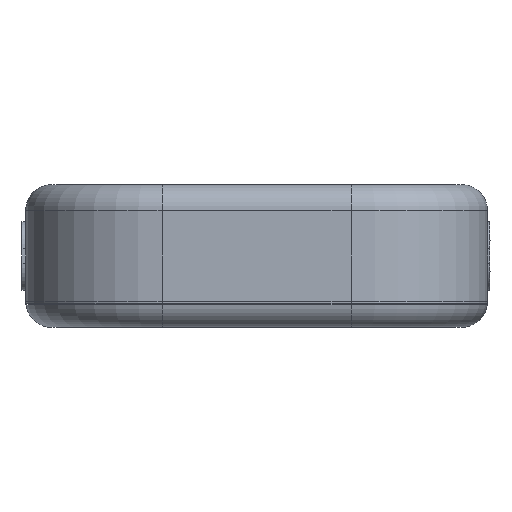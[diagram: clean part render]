
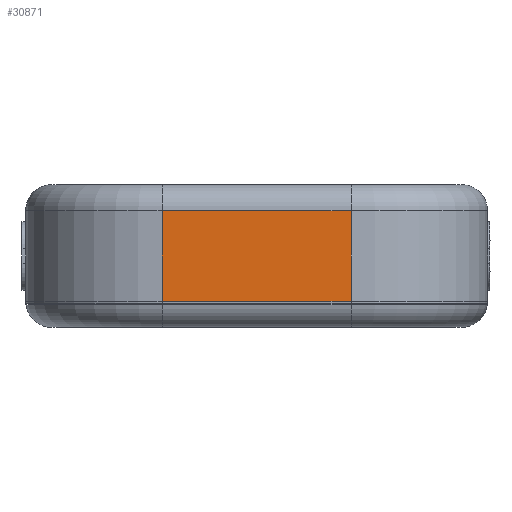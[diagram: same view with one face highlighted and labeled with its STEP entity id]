
A CAD part, front view. The second image highlights one B-rep face of the part: STEP entity #30871.
In plain terms, the highlighted planar face has unit normal (0, -1, 0).
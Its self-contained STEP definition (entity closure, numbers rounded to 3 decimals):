
#30031 = CYLINDRICAL_SURFACE('',#30032,26.);
#30032 = AXIS2_PLACEMENT_3D('',#30033,#30034,#30035);
#30033 = CARTESIAN_POINT('',(-18.,-42.,-13.6));
#30034 = DIRECTION('',(0.,0.,1.));
#30035 = DIRECTION('',(-1.,-0.,0.));
#30196 = VERTEX_POINT('',#30197);
#30197 = CARTESIAN_POINT('',(-18.,-68.,-8.6));
#30224 = EDGE_CURVE('',#30196,#30225,#30227,.T.);
#30225 = VERTEX_POINT('',#30226);
#30226 = CARTESIAN_POINT('',(-18.,-68.,8.6));
#30227 = SURFACE_CURVE('',#30228,(#30232,#30239),.PCURVE_S1.);
#30228 = LINE('',#30229,#30230);
#30229 = CARTESIAN_POINT('',(-18.,-68.,-13.6));
#30230 = VECTOR('',#30231,1.);
#30231 = DIRECTION('',(0.,0.,1.));
#30232 = PCURVE('',#30031,#30233);
#30233 = DEFINITIONAL_REPRESENTATION('',(#30234),#30238);
#30234 = LINE('',#30235,#30236);
#30235 = CARTESIAN_POINT('',(1.571,0.));
#30236 = VECTOR('',#30237,1.);
#30237 = DIRECTION('',(0.,1.));
#30238 = ( GEOMETRIC_REPRESENTATION_CONTEXT(2) 
PARAMETRIC_REPRESENTATION_CONTEXT() REPRESENTATION_CONTEXT('2D SPACE',''
  ) );
#30239 = PCURVE('',#30240,#30245);
#30240 = PLANE('',#30241);
#30241 = AXIS2_PLACEMENT_3D('',#30242,#30243,#30244);
#30242 = CARTESIAN_POINT('',(-44.,-68.,-13.6));
#30243 = DIRECTION('',(0.,1.,0.));
#30244 = DIRECTION('',(0.,-0.,1.));
#30245 = DEFINITIONAL_REPRESENTATION('',(#30246),#30250);
#30246 = LINE('',#30247,#30248);
#30247 = CARTESIAN_POINT('',(0.,26.));
#30248 = VECTOR('',#30249,1.);
#30249 = DIRECTION('',(1.,0.));
#30250 = ( GEOMETRIC_REPRESENTATION_CONTEXT(2) 
PARAMETRIC_REPRESENTATION_CONTEXT() REPRESENTATION_CONTEXT('2D SPACE',''
  ) );
#30775 = CYLINDRICAL_SURFACE('',#30776,5.);
#30776 = AXIS2_PLACEMENT_3D('',#30777,#30778,#30779);
#30777 = CARTESIAN_POINT('',(18.,-63.,-8.6));
#30778 = DIRECTION('',(-1.,-0.,-0.));
#30779 = DIRECTION('',(0.,-1.,0.));
#30861 = CYLINDRICAL_SURFACE('',#30862,5.);
#30862 = AXIS2_PLACEMENT_3D('',#30863,#30864,#30865);
#30863 = CARTESIAN_POINT('',(18.,-63.,8.6));
#30864 = DIRECTION('',(-1.,-0.,-0.));
#30865 = DIRECTION('',(0.,-1.,0.));
#30871 = ADVANCED_FACE('',(#30872),#30240,.F.);
#30872 = FACE_BOUND('',#30873,.F.);
#30873 = EDGE_LOOP('',(#30874,#30875,#30898,#30926));
#30874 = ORIENTED_EDGE('',*,*,#30224,.T.);
#30875 = ORIENTED_EDGE('',*,*,#30876,.F.);
#30876 = EDGE_CURVE('',#30877,#30225,#30879,.T.);
#30877 = VERTEX_POINT('',#30878);
#30878 = CARTESIAN_POINT('',(18.,-68.,8.6));
#30879 = SURFACE_CURVE('',#30880,(#30884,#30891),.PCURVE_S1.);
#30880 = LINE('',#30881,#30882);
#30881 = CARTESIAN_POINT('',(18.,-68.,8.6));
#30882 = VECTOR('',#30883,1.);
#30883 = DIRECTION('',(-1.,-0.,-0.));
#30884 = PCURVE('',#30240,#30885);
#30885 = DEFINITIONAL_REPRESENTATION('',(#30886),#30890);
#30886 = LINE('',#30887,#30888);
#30887 = CARTESIAN_POINT('',(22.2,62.));
#30888 = VECTOR('',#30889,1.);
#30889 = DIRECTION('',(0.,-1.));
#30890 = ( GEOMETRIC_REPRESENTATION_CONTEXT(2) 
PARAMETRIC_REPRESENTATION_CONTEXT() REPRESENTATION_CONTEXT('2D SPACE',''
  ) );
#30891 = PCURVE('',#30861,#30892);
#30892 = DEFINITIONAL_REPRESENTATION('',(#30893),#30897);
#30893 = LINE('',#30894,#30895);
#30894 = CARTESIAN_POINT('',(0.,0.));
#30895 = VECTOR('',#30896,1.);
#30896 = DIRECTION('',(0.,1.));
#30897 = ( GEOMETRIC_REPRESENTATION_CONTEXT(2) 
PARAMETRIC_REPRESENTATION_CONTEXT() REPRESENTATION_CONTEXT('2D SPACE',''
  ) );
#30898 = ORIENTED_EDGE('',*,*,#30899,.F.);
#30899 = EDGE_CURVE('',#30900,#30877,#30902,.T.);
#30900 = VERTEX_POINT('',#30901);
#30901 = CARTESIAN_POINT('',(18.,-68.,-8.6));
#30902 = SURFACE_CURVE('',#30903,(#30907,#30914),.PCURVE_S1.);
#30903 = LINE('',#30904,#30905);
#30904 = CARTESIAN_POINT('',(18.,-68.,-13.6));
#30905 = VECTOR('',#30906,1.);
#30906 = DIRECTION('',(0.,0.,1.));
#30907 = PCURVE('',#30240,#30908);
#30908 = DEFINITIONAL_REPRESENTATION('',(#30909),#30913);
#30909 = LINE('',#30910,#30911);
#30910 = CARTESIAN_POINT('',(0.,62.));
#30911 = VECTOR('',#30912,1.);
#30912 = DIRECTION('',(1.,0.));
#30913 = ( GEOMETRIC_REPRESENTATION_CONTEXT(2) 
PARAMETRIC_REPRESENTATION_CONTEXT() REPRESENTATION_CONTEXT('2D SPACE',''
  ) );
#30914 = PCURVE('',#30915,#30920);
#30915 = CYLINDRICAL_SURFACE('',#30916,26.);
#30916 = AXIS2_PLACEMENT_3D('',#30917,#30918,#30919);
#30917 = CARTESIAN_POINT('',(18.,-42.,-13.6));
#30918 = DIRECTION('',(0.,0.,1.));
#30919 = DIRECTION('',(1.,0.,-0.));
#30920 = DEFINITIONAL_REPRESENTATION('',(#30921),#30925);
#30921 = LINE('',#30922,#30923);
#30922 = CARTESIAN_POINT('',(4.712,0.));
#30923 = VECTOR('',#30924,1.);
#30924 = DIRECTION('',(-0.,1.));
#30925 = ( GEOMETRIC_REPRESENTATION_CONTEXT(2) 
PARAMETRIC_REPRESENTATION_CONTEXT() REPRESENTATION_CONTEXT('2D SPACE',''
  ) );
#30926 = ORIENTED_EDGE('',*,*,#30927,.T.);
#30927 = EDGE_CURVE('',#30900,#30196,#30928,.T.);
#30928 = SURFACE_CURVE('',#30929,(#30933,#30940),.PCURVE_S1.);
#30929 = LINE('',#30930,#30931);
#30930 = CARTESIAN_POINT('',(18.,-68.,-8.6));
#30931 = VECTOR('',#30932,1.);
#30932 = DIRECTION('',(-1.,-0.,-0.));
#30933 = PCURVE('',#30240,#30934);
#30934 = DEFINITIONAL_REPRESENTATION('',(#30935),#30939);
#30935 = LINE('',#30936,#30937);
#30936 = CARTESIAN_POINT('',(5.,62.));
#30937 = VECTOR('',#30938,1.);
#30938 = DIRECTION('',(0.,-1.));
#30939 = ( GEOMETRIC_REPRESENTATION_CONTEXT(2) 
PARAMETRIC_REPRESENTATION_CONTEXT() REPRESENTATION_CONTEXT('2D SPACE',''
  ) );
#30940 = PCURVE('',#30775,#30941);
#30941 = DEFINITIONAL_REPRESENTATION('',(#30942),#30946);
#30942 = LINE('',#30943,#30944);
#30943 = CARTESIAN_POINT('',(6.283,0.));
#30944 = VECTOR('',#30945,1.);
#30945 = DIRECTION('',(-0.,1.));
#30946 = ( GEOMETRIC_REPRESENTATION_CONTEXT(2) 
PARAMETRIC_REPRESENTATION_CONTEXT() REPRESENTATION_CONTEXT('2D SPACE',''
  ) );
